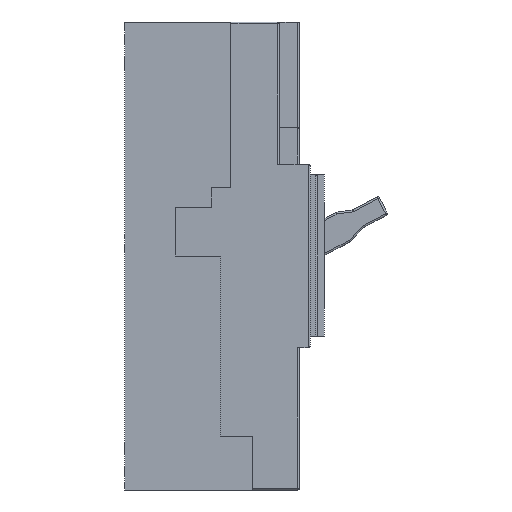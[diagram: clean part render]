
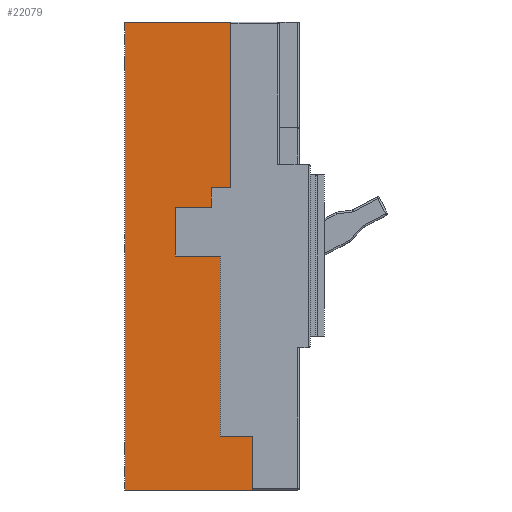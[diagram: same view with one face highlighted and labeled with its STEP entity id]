
A CAD part, left-side view. The second image highlights one B-rep face of the part: STEP entity #22079.
In plain terms, the highlighted planar face has unit normal (-1, 0, 0).
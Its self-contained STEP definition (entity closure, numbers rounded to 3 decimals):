
#7462=DIRECTION('',(0.,1.,0.));
#7463=VECTOR('',#7462,71.);
#7464=CARTESIAN_POINT('',(-70.2,-22.5,-130.));
#7465=LINE('',#7464,#7463);
#7466=DIRECTION('',(0.,0.,1.));
#7467=VECTOR('',#7466,260.);
#7468=CARTESIAN_POINT('',(-70.2,48.5,-130.));
#7469=LINE('',#7468,#7467);
#7470=DIRECTION('',(0.,-1.,0.));
#7471=VECTOR('',#7470,59.);
#7472=CARTESIAN_POINT('',(-70.2,48.5,130.));
#7473=LINE('',#7472,#7471);
#7474=DIRECTION('',(0.,0.,-1.));
#7475=VECTOR('',#7474,92.);
#7476=CARTESIAN_POINT('',(-70.2,-10.5,130.));
#7477=LINE('',#7476,#7475);
#7478=DIRECTION('',(0.,1.,0.));
#7479=VECTOR('',#7478,11.);
#7480=CARTESIAN_POINT('',(-70.2,-10.5,38.));
#7481=LINE('',#7480,#7479);
#7482=DIRECTION('',(0.,0.,-1.));
#7483=VECTOR('',#7482,11.);
#7484=CARTESIAN_POINT('',(-70.2,0.5,38.));
#7485=LINE('',#7484,#7483);
#7486=DIRECTION('',(0.,1.,0.));
#7487=VECTOR('',#7486,20.);
#7488=CARTESIAN_POINT('',(-70.2,0.5,27.));
#7489=LINE('',#7488,#7487);
#7490=DIRECTION('',(0.,0.,-1.));
#7491=VECTOR('',#7490,27.);
#7492=CARTESIAN_POINT('',(-70.2,20.5,27.));
#7493=LINE('',#7492,#7491);
#7494=DIRECTION('',(0.,-1.,0.));
#7495=VECTOR('',#7494,25.);
#7496=CARTESIAN_POINT('',(-70.2,20.5,0.));
#7497=LINE('',#7496,#7495);
#7498=DIRECTION('',(0.,0.,-1.));
#7499=VECTOR('',#7498,100.);
#7500=CARTESIAN_POINT('',(-70.2,-4.5,0.));
#7501=LINE('',#7500,#7499);
#7502=DIRECTION('',(0.,-1.,0.));
#7503=VECTOR('',#7502,18.);
#7504=CARTESIAN_POINT('',(-70.2,-4.5,-100.));
#7505=LINE('',#7504,#7503);
#7506=DIRECTION('',(0.,0.,-1.));
#7507=VECTOR('',#7506,30.);
#7508=CARTESIAN_POINT('',(-70.2,-22.5,-100.));
#7509=LINE('',#7508,#7507);
#11078=CARTESIAN_POINT('',(-70.2,-22.5,-130.));
#11079=CARTESIAN_POINT('',(-70.2,48.5,-130.));
#11080=VERTEX_POINT('',#11078);
#11081=VERTEX_POINT('',#11079);
#11082=CARTESIAN_POINT('',(-70.2,48.5,130.));
#11083=VERTEX_POINT('',#11082);
#11084=CARTESIAN_POINT('',(-70.2,-10.5,130.));
#11085=VERTEX_POINT('',#11084);
#11086=CARTESIAN_POINT('',(-70.2,-10.5,38.));
#11087=VERTEX_POINT('',#11086);
#11088=CARTESIAN_POINT('',(-70.2,0.5,38.));
#11089=VERTEX_POINT('',#11088);
#11090=CARTESIAN_POINT('',(-70.2,0.5,27.));
#11091=VERTEX_POINT('',#11090);
#11092=CARTESIAN_POINT('',(-70.2,20.5,27.));
#11093=VERTEX_POINT('',#11092);
#11094=CARTESIAN_POINT('',(-70.2,20.5,0.));
#11095=VERTEX_POINT('',#11094);
#11096=CARTESIAN_POINT('',(-70.2,-4.5,0.));
#11097=VERTEX_POINT('',#11096);
#11098=CARTESIAN_POINT('',(-70.2,-4.5,-100.));
#11099=VERTEX_POINT('',#11098);
#11100=CARTESIAN_POINT('',(-70.2,-22.5,-100.));
#11101=VERTEX_POINT('',#11100);
#22052=CARTESIAN_POINT('',(-70.2,0.,0.));
#22053=DIRECTION('',(1.,0.,0.));
#22054=DIRECTION('',(0.,0.,1.));
#22055=AXIS2_PLACEMENT_3D('',#22052,#22053,#22054);
#22056=PLANE('',#22055);
#22057=ORIENTED_EDGE('',*,*,#20564,.T.);
#22058=ORIENTED_EDGE('',*,*,#19793,.T.);
#22059=ORIENTED_EDGE('',*,*,#19512,.T.);
#22061=ORIENTED_EDGE('',*,*,#22060,.T.);
#22063=ORIENTED_EDGE('',*,*,#22062,.T.);
#22065=ORIENTED_EDGE('',*,*,#22064,.T.);
#22067=ORIENTED_EDGE('',*,*,#22066,.T.);
#22069=ORIENTED_EDGE('',*,*,#22068,.T.);
#22071=ORIENTED_EDGE('',*,*,#22070,.T.);
#22073=ORIENTED_EDGE('',*,*,#22072,.T.);
#22075=ORIENTED_EDGE('',*,*,#22074,.T.);
#22076=ORIENTED_EDGE('',*,*,#22045,.T.);
#22077=EDGE_LOOP('',(#22057,#22058,#22059,#22061,#22063,#22065,#22067,#22069,
#22071,#22073,#22075,#22076));
#22078=FACE_OUTER_BOUND('',#22077,.F.);
#19512=EDGE_CURVE('',#11083,#11085,#7473,.T.);
#19793=EDGE_CURVE('',#11081,#11083,#7469,.T.);
#20564=EDGE_CURVE('',#11080,#11081,#7465,.T.);
#22045=EDGE_CURVE('',#11101,#11080,#7509,.T.);
#22060=EDGE_CURVE('',#11085,#11087,#7477,.T.);
#22062=EDGE_CURVE('',#11087,#11089,#7481,.T.);
#22064=EDGE_CURVE('',#11089,#11091,#7485,.T.);
#22066=EDGE_CURVE('',#11091,#11093,#7489,.T.);
#22068=EDGE_CURVE('',#11093,#11095,#7493,.T.);
#22070=EDGE_CURVE('',#11095,#11097,#7497,.T.);
#22072=EDGE_CURVE('',#11097,#11099,#7501,.T.);
#22074=EDGE_CURVE('',#11099,#11101,#7505,.T.);
#22079=ADVANCED_FACE('',(#22078),#22056,.F.);
